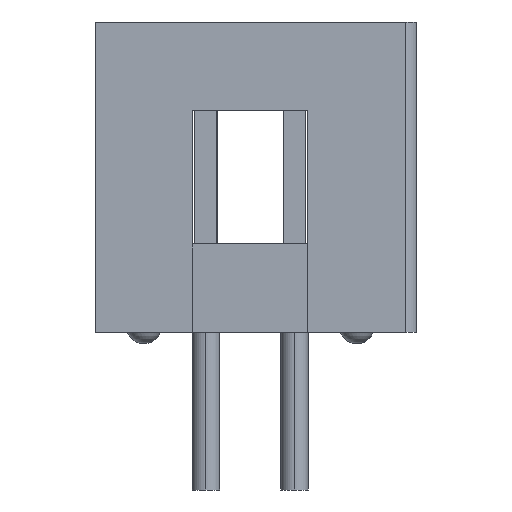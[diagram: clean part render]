
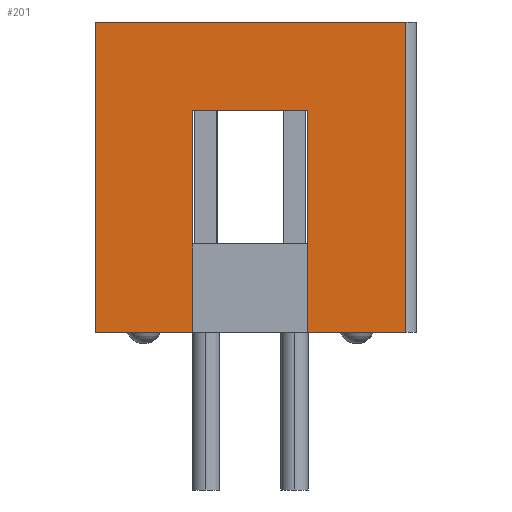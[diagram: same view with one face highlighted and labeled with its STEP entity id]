
A CAD part, left-side view. The second image highlights one B-rep face of the part: STEP entity #201.
In plain terms, the highlighted planar face has unit normal (-1, 0, 0).
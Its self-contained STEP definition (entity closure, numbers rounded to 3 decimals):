
#201=ADVANCED_FACE('',(#648),#649,.T.);
#648=FACE_OUTER_BOUND('',#1185,.T.);
#649=PLANE('',#1186);
#1185=EDGE_LOOP('',(#2719,#2720,#2721,#2722,#2723,#2724,#2725,#2726));
#1186=AXIS2_PLACEMENT_3D('',#2727,#2728,#2729);
#2719=ORIENTED_EDGE('',*,*,#3818,.F.);
#2720=ORIENTED_EDGE('',*,*,#3334,.T.);
#2721=ORIENTED_EDGE('',*,*,#3763,.F.);
#2722=ORIENTED_EDGE('',*,*,#3695,.F.);
#2723=ORIENTED_EDGE('',*,*,#3817,.T.);
#2724=ORIENTED_EDGE('',*,*,#3780,.F.);
#2725=ORIENTED_EDGE('',*,*,#3819,.F.);
#2726=ORIENTED_EDGE('',*,*,#3691,.F.);
#2727=CARTESIAN_POINT('',(-16.51,4.445,0.0));
#2728=DIRECTION('',(-1.0,0.0,0.0));
#2729=DIRECTION('',(0.0,0.0,1.0));
#3334=EDGE_CURVE('',#3954,#3952,#3955,.T.);
#3691=EDGE_CURVE('',#4568,#4570,#4571,.T.);
#3695=EDGE_CURVE('',#4576,#4578,#4579,.T.);
#3763=EDGE_CURVE('',#4578,#3952,#4704,.T.);
#3780=EDGE_CURVE('',#4731,#4726,#4733,.T.);
#3817=EDGE_CURVE('',#4576,#4726,#4777,.T.);
#3818=EDGE_CURVE('',#3954,#4568,#4778,.T.);
#3819=EDGE_CURVE('',#4570,#4731,#4779,.T.);
#3952=VERTEX_POINT('',#4973);
#3954=VERTEX_POINT('',#4976);
#3955=LINE('',#4977,#4978);
#4568=VERTEX_POINT('',#5937);
#4570=VERTEX_POINT('',#5940);
#4571=LINE('',#5941,#5942);
#4576=VERTEX_POINT('',#5949);
#4578=VERTEX_POINT('',#5952);
#4579=LINE('',#5953,#5954);
#4704=LINE('',#6086,#6087);
#4726=VERTEX_POINT('',#6120);
#4731=VERTEX_POINT('',#6127);
#4733=LINE('',#6130,#6131);
#4777=LINE('',#6223,#6224);
#4778=LINE('',#6225,#6226);
#4779=LINE('',#6227,#6228);
#4973=CARTESIAN_POINT('',(-16.51,4.445,0.0));
#4976=CARTESIAN_POINT('',(-16.51,-4.445,0.0));
#4977=CARTESIAN_POINT('',(-16.51,-4.445,0.0));
#4978=VECTOR('',#6480,8.89);
#5937=CARTESIAN_POINT('',(-16.51,-4.445,-8.89));
#5940=CARTESIAN_POINT('',(-16.51,-1.651,-8.89));
#5941=CARTESIAN_POINT('',(-16.51,-4.445,-8.89));
#5942=VECTOR('',#6855,2.794);
#5949=CARTESIAN_POINT('',(-16.51,1.651,-8.89));
#5952=CARTESIAN_POINT('',(-16.51,4.445,-8.89));
#5953=CARTESIAN_POINT('',(-16.51,1.651,-8.89));
#5954=VECTOR('',#6859,2.794);
#6086=CARTESIAN_POINT('',(-16.51,4.445,-8.89));
#6087=VECTOR('',#7047,8.89);
#6120=CARTESIAN_POINT('',(-16.51,1.651,-2.54));
#6127=CARTESIAN_POINT('',(-16.51,-1.651,-2.54));
#6130=CARTESIAN_POINT('',(-16.51,-1.651,-2.54));
#6131=VECTOR('',#7068,3.302);
#6223=CARTESIAN_POINT('',(-16.51,1.651,-8.89));
#6224=VECTOR('',#7103,6.35);
#6225=CARTESIAN_POINT('',(-16.51,-4.445,0.0));
#6226=VECTOR('',#7104,8.89);
#6227=CARTESIAN_POINT('',(-16.51,-1.651,-8.89));
#6228=VECTOR('',#7105,6.35);
#6480=DIRECTION('',(0.0,1.0,0.0));
#6855=DIRECTION('',(0.0,1.0,0.0));
#6859=DIRECTION('',(0.0,1.0,0.0));
#7047=DIRECTION('',(0.0,0.0,1.0));
#7068=DIRECTION('',(0.0,1.0,0.0));
#7103=DIRECTION('',(0.0,0.0,1.0));
#7104=DIRECTION('',(0.0,0.0,-1.0));
#7105=DIRECTION('',(0.0,0.0,1.0));
